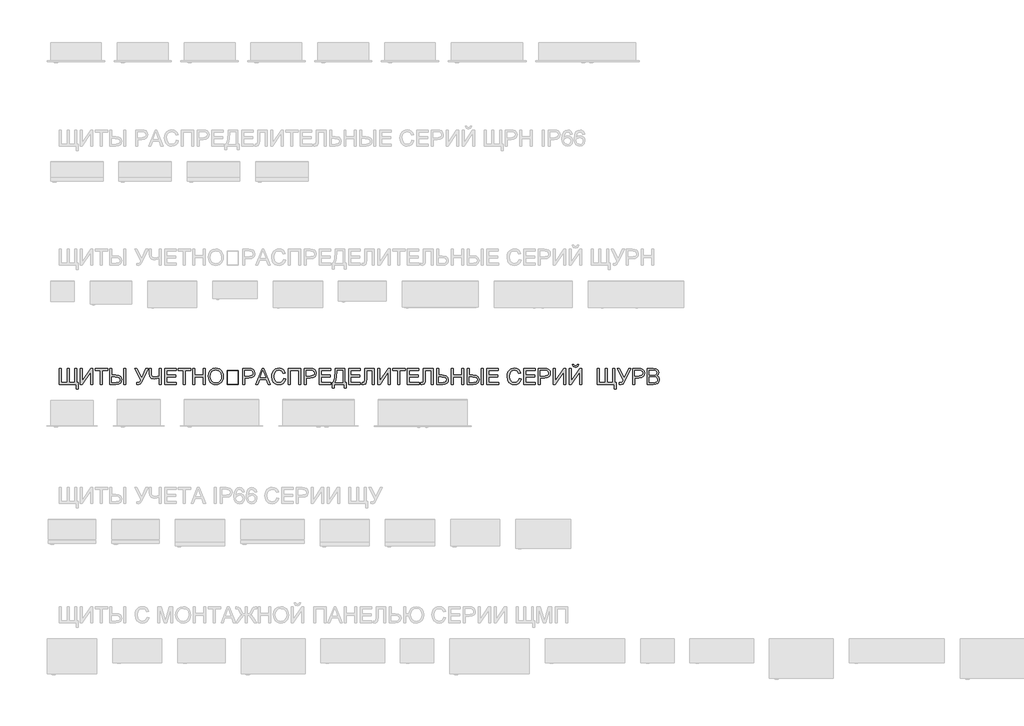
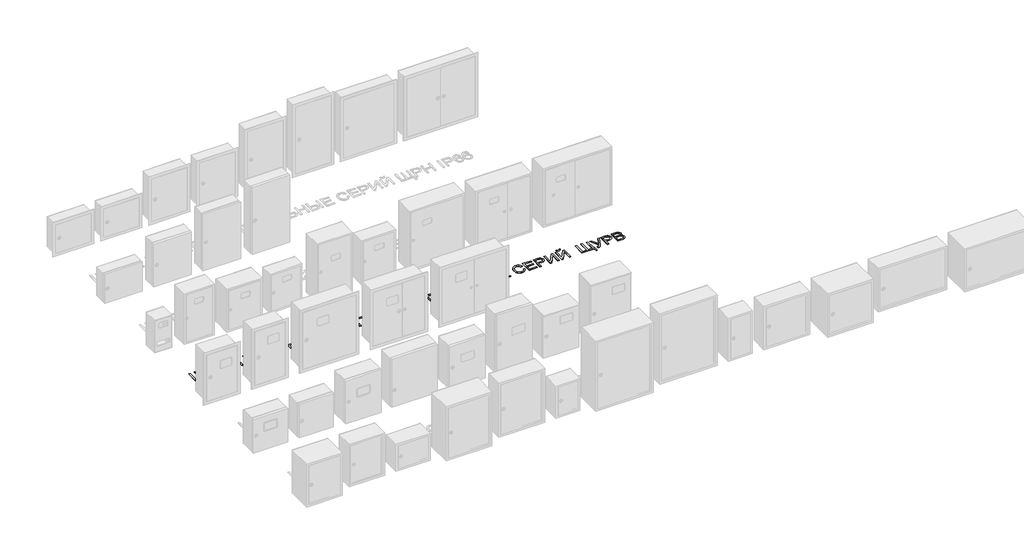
# One storey, part 10 of 25: 1 proxy.
"""IFC4 building model written with IfcOpenShell, lengths in millimetres."""

from ifc_helpers import new_model, si_unit, frame, origin, place, context, project, spatial, polyline, outline, extrude, element, save

model = new_model("IFC4")

# Units and contexts
model_context = context("Model", 3, world=origin())
ifc_project = project(units=[si_unit("LENGTHUNIT", "METRE", prefix="MILLI")], contexts=[model_context])

# Site, building, storey
site = spatial("IfcSite", under=ifc_project)
building = spatial("IfcBuilding", under=site)
storey = spatial("IfcBuildingStorey", under=building, Name="Этаж 01", Elevation=0.0)

# Proxy
placement = place(None, origin())
element("IfcBuildingElementProxy", 1, Name="Надпись на модели 1", ObjectType="Надпись на модели 1", at=placement, inside=storey, context=model_context, shape_type="SweptSolid", body=[
    extrude(outline(polyline([(-19039.6906686, 6886.6915941), (-19027.1336298, 6886.6915941), (-19027.1336298, 6798.7923228), (-18991.0321433, 6798.7923228), (-18991.0321433, 6886.6915941), (-18978.4751046, 6886.6915941), (-18978.4751046, 6798.7923228), (-18942.3736181, 6798.7923228), (-18942.3736181, 6886.6915941), (-18929.8165793, 6886.6915941), (-18929.8165793, 6798.7923228), (-18920.3988003, 6798.7923228), (-18920.3988003, 6757.9819468), (-18932.955839, 6757.9819468), (-18932.955839, 6786.235284), (-19039.6906686, 6786.235284), (-19039.6906686, 6886.6915941)])), frame((0.0, 0.0, 40.0), z_axis=(0.0, 0.0, 1.0), x_axis=(1.0, 0.0, 0.0)), (0.0, 0.0, 1.0), 2.0),
    extrude(outline(polyline([(-18907.8417615, 6886.6915941), (-18895.2847227, 6886.6915941), (-18895.2847227, 6807.1309813), (-18842.7021229, 6886.6915941), (-18829.3602692, 6886.6915941), (-18829.3602692, 6786.235284), (-18841.917308, 6786.235284), (-18841.917308, 6865.5751676), (-18894.3772805, 6786.235284), (-18907.8417615, 6786.235284), (-18907.8417615, 6886.6915941)])), frame((0.0, 0.0, 40.0), z_axis=(0.0, 0.0, 1.0), x_axis=(1.0, 0.0, 0.0)), (0.0, 0.0, 1.0), 2.0),
    extrude(outline(polyline([(-18782.2713738, 6786.235284), (-18782.2713738, 6874.1345554), (-18815.2336006, 6874.1345554), (-18815.2336006, 6886.6915941), (-18736.7521083, 6886.6915941), (-18736.7521083, 6874.1345554), (-18769.714335, 6874.1345554), (-18769.714335, 6786.235284), (-18782.2713738, 6786.235284)])), frame((0.0, 0.0, 40.0), z_axis=(0.0, 0.0, 1.0), x_axis=(1.0, 0.0, 0.0)), (0.0, 0.0, 1.0), 2.0),
    extrude(outline(polyline([(-18722.6254397, 6886.6915941), (-18710.0684009, 6886.6915941), (-18710.0684009, 6844.3115883), (-18685.935342, 6844.3115883), (-18666.2965748, 6842.1165591), (-18654.7634743, 6835.5314713), (-18649.1532739, 6826.1627432), (-18647.2832071, 6815.6167927), (-18649.2605728, 6804.6017926), (-18655.1926699, 6795.0521891), (-18666.4958443, 6788.4395103), (-18684.5864414, 6786.235284), (-18722.6254397, 6786.235284), (-18722.6254397, 6886.6915941)]), holes=[polyline([(-18710.0684009, 6798.7923228), (-18684.7090687, 6798.7923228), (-18665.7386205, 6802.777711), (-18661.3148395, 6807.9617815), (-18659.8402458, 6815.5432163), (-18663.4087012, 6825.5250811), (-18672.6302765, 6830.6509035), (-18691.5026229, 6831.7545495), (-18710.0684009, 6831.7545495), (-18710.0684009, 6798.7923228)])]), frame((0.0, 0.0, 40.0), z_axis=(0.0, 0.0, 1.0), x_axis=(1.0, 0.0, 0.0)), (0.0, 0.0, 1.0), 2.0),
    extrude(outline(polyline([(-18634.7261683, 6886.6915941), (-18622.1691295, 6886.6915941), (-18622.1691295, 6786.235284), (-18634.7261683, 6786.235284), (-18634.7261683, 6886.6915941)])), frame((0.0, 0.0, 40.0), z_axis=(0.0, 0.0, 1.0), x_axis=(1.0, 0.0, 0.0)), (0.0, 0.0, 1.0), 2.0),
    extrude(outline(polyline([(-18566.44727, 6886.6915941), (-18552.5413306, 6886.6915941), (-18522.4976343, 6827.1928128), (-18495.4705704, 6886.6915941), (-18481.6872583, 6886.6915941), (-18519.8243585, 6808.430831), (-18530.1986307, 6789.2028654), (-18541.7991763, 6784.6656541), (-18553.1054163, 6786.235284), (-18553.1054163, 6797.2226929), (-18543.2216533, 6797.2226929), (-18535.8885389, 6800.0185961), (-18529.0949847, 6812.7473131), (-18566.44727, 6886.6915941)])), frame((0.0, 0.0, 40.0), z_axis=(0.0, 0.0, 1.0), x_axis=(1.0, 0.0, 0.0)), (0.0, 0.0, 1.0), 2.0),
    extrude(outline(polyline([(-18399.2816914, 6786.235284), (-18411.8387301, 6786.235284), (-18411.8387301, 6826.4570488), (-18442.9370215, 6819.1975108), (-18461.294333, 6824.1639177), (-18471.9383854, 6836.7700074), (-18474.623924, 6856.7705252), (-18474.623924, 6886.6915941), (-18462.0668852, 6886.6915941), (-18462.0668852, 6858.4627824), (-18460.558569, 6844.8848711), (-18456.0336205, 6836.9171602), (-18441.5390699, 6831.7545495), (-18411.8387301, 6837.984018), (-18411.8387301, 6886.6915941), (-18399.2816914, 6886.6915941), (-18399.2816914, 6786.235284)])), frame((0.0, 0.0, 40.0), z_axis=(0.0, 0.0, 1.0), x_axis=(1.0, 0.0, 0.0)), (0.0, 0.0, 1.0), 2.0),
    extrude(outline(polyline([(-18377.3068735, 6786.235284), (-18377.3068735, 6886.6915941), (-18305.1039006, 6886.6915941), (-18305.1039006, 6874.1345554), (-18364.7498348, 6874.1345554), (-18364.7498348, 6844.3115883), (-18308.2431603, 6844.3115883), (-18308.2431603, 6831.7545495), (-18364.7498348, 6831.7545495), (-18364.7498348, 6798.7923228), (-18303.5342708, 6798.7923228), (-18303.5342708, 6786.235284), (-18377.3068735, 6786.235284)])), frame((0.0, 0.0, 40.0), z_axis=(0.0, 0.0, 1.0), x_axis=(1.0, 0.0, 0.0)), (0.0, 0.0, 1.0), 2.0),
    extrude(outline(polyline([(-18259.5846351, 6786.235284), (-18259.5846351, 6874.1345554), (-18292.5468618, 6874.1345554), (-18292.5468618, 6886.6915941), (-18214.0653695, 6886.6915941), (-18214.0653695, 6874.1345554), (-18247.0275963, 6874.1345554), (-18247.0275963, 6786.235284), (-18259.5846351, 6786.235284)])), frame((0.0, 0.0, 40.0), z_axis=(0.0, 0.0, 1.0), x_axis=(1.0, 0.0, 0.0)), (0.0, 0.0, 1.0), 2.0),
    extrude(outline(polyline([(-18199.9387009, 6786.235284), (-18199.9387009, 6886.6915941), (-18187.3816621, 6886.6915941), (-18187.3816621, 6845.8812181), (-18134.0142474, 6845.8812181), (-18134.0142474, 6886.6915941), (-18121.4572086, 6886.6915941), (-18121.4572086, 6786.235284), (-18134.0142474, 6786.235284), (-18134.0142474, 6833.3241794), (-18187.3816621, 6833.3241794), (-18187.3816621, 6786.235284), (-18199.9387009, 6786.235284)])), frame((0.0, 0.0, 40.0), z_axis=(0.0, 0.0, 1.0), x_axis=(1.0, 0.0, 0.0)), (0.0, 0.0, 1.0), 2.0),
    extrude(outline(polyline([(-18104.1912803, 6835.1390639), (-18100.8435541, 6857.353005), (-18090.8003757, 6874.1590808), (-18075.4658278, 6884.7356882), (-18056.2439936, 6888.261224), (-18043.0676868, 6886.605755), (-18031.2525434, 6881.6393481), (-18021.4423569, 6873.7114911), (-18014.2809207, 6863.1716719), (-18009.9031249, 6850.528794), (-18008.4438597, 6836.2917608), (-18009.979767, 6821.8646552), (-18014.587489, 6809.0439677), (-18022.0125739, 6798.4857544), (-18032.0005701, 6790.8460717), (-18043.714546, 6786.2107585), (-18056.31757, 6784.6656541), (-18069.6962119, 6786.3732397), (-18081.5788003, 6791.4959965), (-18091.3644614, 6799.5710063), (-18098.4523212, 6810.1353509), (-18104.1912803, 6835.1390639)]), holes=[polyline([(-18091.6342415, 6835.0164366), (-18089.1234469, 6819.301744), (-18081.5910631, 6807.327185), (-18070.2694947, 6799.7488159), (-18056.3911464, 6797.2226929), (-18042.310463, 6799.7733414), (-18030.9705005, 6807.4252869), (-18023.493299, 6819.7677279), (-18021.0008985, 6836.3898627), (-18025.2683296, 6857.1138817), (-18037.7395292, 6870.8358802), (-18056.1704172, 6875.7041852), (-18069.6778178, 6873.3589375), (-18081.1618674, 6866.3231943), (-18089.016148, 6853.8060095), (-18091.6342415, 6835.0164366)])]), frame((0.0, 0.0, 40.0), z_axis=(0.0, 0.0, 1.0), x_axis=(1.0, 0.0, 0.0)), (0.0, 0.0, 1.0), 2.0),
    extrude(outline(polyline([(-17984.899412, 6786.235284), (-17984.899412, 6874.1345554), (-17914.2660689, 6874.1345554), (-17914.2660689, 6786.235284), (-17984.899412, 6786.235284)]), holes=[polyline([(-17981.7601523, 6789.3745437), (-17917.4053286, 6789.3745437), (-17917.4053286, 6870.9952957), (-17981.7601523, 6870.9952957), (-17981.7601523, 6789.3745437)])]), frame((0.0, 0.0, 40.0), z_axis=(0.0, 0.0, 1.0), x_axis=(1.0, 0.0, 0.0)), (0.0, 0.0, 1.0), 2.0),
    extrude(outline(polyline([(-17886.0127317, 6786.235284), (-17886.0127317, 6886.6915941), (-17848.7830738, 6886.6915941), (-17833.7734884, 6885.735101), (-17821.5720689, 6881.0384742), (-17813.662606, 6871.3263895), (-17810.6704991, 6857.6289165), (-17812.6907844, 6845.7892476), (-17818.7516402, 6835.9238788), (-17830.0854714, 6829.2652147), (-17847.9246825, 6827.04566), (-17873.4556929, 6827.04566), (-17873.4556929, 6786.235284), (-17886.0127317, 6786.235284)]), holes=[polyline([(-17873.4556929, 6839.6026988), (-17847.1889185, 6839.6026988), (-17828.6967169, 6844.2134864), (-17824.5948326, 6849.7623732), (-17823.2275379, 6857.1874581), (-17826.4526367, 6867.5862559), (-17834.9261853, 6873.2761641), (-17847.4832241, 6874.1345554), (-17873.4556929, 6874.1345554), (-17873.4556929, 6839.6026988)])]), frame((0.0, 0.0, 40.0), z_axis=(0.0, 0.0, 1.0), x_axis=(1.0, 0.0, 0.0)), (0.0, 0.0, 1.0), 2.0),
    extrude(outline(polyline([(-17805.1032182, 6786.235284), (-17765.0040808, 6886.6915941), (-17754.3109774, 6886.6915941), (-17714.21184, 6786.235284), (-17727.4801172, 6786.235284), (-17738.982561, 6817.6278809), (-17780.3570227, 6817.6278809), (-17791.8349409, 6786.235284), (-17805.1032182, 6786.235284)]), holes=[polyline([(-17775.746235, 6830.1849197), (-17743.5688232, 6830.1849197), (-17752.6187202, 6854.8820643), (-17759.6575291, 6874.1345554), (-17765.911523, 6857.0403053), (-17775.746235, 6830.1849197)])]), frame((0.0, 0.0, 40.0), z_axis=(0.0, 0.0, 1.0), x_axis=(1.0, 0.0, 0.0)), (0.0, 0.0, 1.0), 2.0),
    extrude(outline(polyline([(-17630.1630668, 6821.944363), (-17617.606028, 6818.7070014), (-17623.4001694, 6804.0744951), (-17632.4929861, 6793.3844574), (-17644.4368882, 6786.845355), (-17658.784286, 6784.6656541), (-17673.3493473, 6786.3149918), (-17684.9161704, 6791.2630046), (-17693.7821265, 6799.3380144), (-17700.2445869, 6810.3683429), (-17705.5052994, 6837.2237285), (-17704.018443, 6851.8715633), (-17699.5578738, 6864.5205726), (-17692.3565838, 6874.7691518), (-17682.6475648, 6882.2156965), (-17671.1328583, 6886.7498421), (-17658.5145059, 6888.261224), (-17644.7465222, 6886.305318), (-17633.3636401, 6880.4376002), (-17624.7214789, 6871.0198211), (-17619.1756579, 6858.4137314), (-17631.7326966, 6855.4216246), (-17642.0333925, 6870.8604056), (-17659.0050152, 6875.7041852), (-17678.6499138, 6870.3331081), (-17689.7476873, 6855.9121339), (-17692.9482606, 6837.248254), (-17689.1590761, 6815.6167927), (-17677.3623268, 6801.7966924), (-17660.0350848, 6797.2226929), (-17649.5535136, 6798.78006), (-17640.8193819, 6803.4521614), (-17634.2250972, 6811.189946), (-17630.1630668, 6821.944363)])), frame((0.0, 0.0, 40.0), z_axis=(0.0, 0.0, 1.0), x_axis=(1.0, 0.0, 0.0)), (0.0, 0.0, 1.0), 2.0),
    extrude(outline(polyline([(-17600.3400997, 6886.6915941), (-17521.8586074, 6886.6915941), (-17521.8586074, 6786.235284), (-17534.4156462, 6786.235284), (-17534.4156462, 6874.1345554), (-17587.7830609, 6874.1345554), (-17587.7830609, 6786.235284), (-17600.3400997, 6786.235284), (-17600.3400997, 6886.6915941)])), frame((0.0, 0.0, 40.0), z_axis=(0.0, 0.0, 1.0), x_axis=(1.0, 0.0, 0.0)), (0.0, 0.0, 1.0), 2.0),
    extrude(outline(polyline([(-17499.8837896, 6786.235284), (-17499.8837896, 6886.6915941), (-17462.6541316, 6886.6915941), (-17447.6445462, 6885.735101), (-17435.4431267, 6881.0384742), (-17427.5336638, 6871.3263895), (-17424.5415569, 6857.6289165), (-17426.5618422, 6845.7892476), (-17432.6226981, 6835.9238788), (-17443.9565292, 6829.2652147), (-17461.7957403, 6827.04566), (-17487.3267508, 6827.04566), (-17487.3267508, 6786.235284), (-17499.8837896, 6786.235284)]), holes=[polyline([(-17487.3267508, 6839.6026988), (-17461.0599763, 6839.6026988), (-17442.5677747, 6844.2134864), (-17438.4658905, 6849.7623732), (-17437.0985957, 6857.1874581), (-17440.3236945, 6867.5862559), (-17448.7972432, 6873.2761641), (-17461.3542819, 6874.1345554), (-17487.3267508, 6874.1345554), (-17487.3267508, 6839.6026988)])]), frame((0.0, 0.0, 40.0), z_axis=(0.0, 0.0, 1.0), x_axis=(1.0, 0.0, 0.0)), (0.0, 0.0, 1.0), 2.0),
    extrude(outline(polyline([(-17407.2756286, 6786.235284), (-17407.2756286, 6886.6915941), (-17335.0726557, 6886.6915941), (-17335.0726557, 6874.1345554), (-17394.7185899, 6874.1345554), (-17394.7185899, 6844.3115883), (-17338.2119154, 6844.3115883), (-17338.2119154, 6831.7545495), (-17394.7185899, 6831.7545495), (-17394.7185899, 6798.7923228), (-17333.5030259, 6798.7923228), (-17333.5030259, 6786.235284), (-17407.2756286, 6786.235284)])), frame((0.0, 0.0, 40.0), z_axis=(0.0, 0.0, 1.0), x_axis=(1.0, 0.0, 0.0)), (0.0, 0.0, 1.0), 2.0),
    extrude(outline(polyline([(-17305.2496886, 6886.6915941), (-17245.6037545, 6886.6915941), (-17245.6037545, 6798.7923228), (-17236.1859754, 6798.7923228), (-17236.1859754, 6762.6908363), (-17248.7430142, 6762.6908363), (-17248.7430142, 6786.235284), (-17313.0978379, 6786.235284), (-17313.0978379, 6762.6908363), (-17325.6548766, 6762.6908363), (-17325.6548766, 6798.7923228), (-17317.8067274, 6798.7923228), (-17308.3889483, 6826.2056628), (-17305.2496886, 6872.1479926), (-17305.2496886, 6886.6915941)]), holes=[polyline([(-17258.1607933, 6874.1345554), (-17292.6926499, 6874.1345554), (-17292.6926499, 6869.0823093), (-17295.2432984, 6834.67308), (-17299.0202202, 6814.7890582), (-17305.2496886, 6798.7923228), (-17258.1607933, 6798.7923228), (-17258.1607933, 6874.1345554)])]), frame((0.0, 0.0, 40.0), z_axis=(0.0, 0.0, 1.0), x_axis=(1.0, 0.0, 0.0)), (0.0, 0.0, 1.0), 2.0),
    extrude(outline(polyline([(-17220.489677, 6786.235284), (-17220.489677, 6886.6915941), (-17148.286704, 6886.6915941), (-17148.286704, 6874.1345554), (-17207.9326382, 6874.1345554), (-17207.9326382, 6844.3115883), (-17151.4259637, 6844.3115883), (-17151.4259637, 6831.7545495), (-17207.9326382, 6831.7545495), (-17207.9326382, 6798.7923228), (-17146.7170742, 6798.7923228), (-17146.7170742, 6786.235284), (-17220.489677, 6786.235284)])), frame((0.0, 0.0, 40.0), z_axis=(0.0, 0.0, 1.0), x_axis=(1.0, 0.0, 0.0)), (0.0, 0.0, 1.0), 2.0),
    extrude(outline(polyline([(-17120.0333668, 6886.6915941), (-17058.8178028, 6886.6915941), (-17058.8178028, 6786.235284), (-17071.3748416, 6786.235284), (-17071.3748416, 6874.1345554), (-17107.476328, 6874.1345554), (-17107.476328, 6822.8763307), (-17108.9355933, 6800.0063333), (-17115.0546971, 6788.7000934), (-17126.8759719, 6784.6656541), (-17137.2992951, 6786.235284), (-17135.7296653, 6798.7923228), (-17129.720926, 6797.2226929), (-17122.4491252, 6800.5949445), (-17120.0333668, 6816.475184), (-17120.0333668, 6886.6915941)])), frame((0.0, 0.0, 40.0), z_axis=(0.0, 0.0, 1.0), x_axis=(1.0, 0.0, 0.0)), (0.0, 0.0, 1.0), 2.0),
    extrude(outline(polyline([(-17036.842985, 6886.6915941), (-17024.2859462, 6886.6915941), (-17024.2859462, 6807.1309813), (-16971.7033464, 6886.6915941), (-16958.3614927, 6886.6915941), (-16958.3614927, 6786.235284), (-16970.9185314, 6786.235284), (-16970.9185314, 6865.5751676), (-17023.3785039, 6786.235284), (-17036.842985, 6786.235284), (-17036.842985, 6886.6915941)])), frame((0.0, 0.0, 40.0), z_axis=(0.0, 0.0, 1.0), x_axis=(1.0, 0.0, 0.0)), (0.0, 0.0, 1.0), 2.0),
    extrude(outline(polyline([(-16911.2725973, 6786.235284), (-16911.2725973, 6874.1345554), (-16944.234824, 6874.1345554), (-16944.234824, 6886.6915941), (-16865.7533317, 6886.6915941), (-16865.7533317, 6874.1345554), (-16898.7155585, 6874.1345554), (-16898.7155585, 6786.235284), (-16911.2725973, 6786.235284)])), frame((0.0, 0.0, 40.0), z_axis=(0.0, 0.0, 1.0), x_axis=(1.0, 0.0, 0.0)), (0.0, 0.0, 1.0), 2.0),
    extrude(outline(polyline([(-16851.6266631, 6786.235284), (-16851.6266631, 6886.6915941), (-16779.4236902, 6886.6915941), (-16779.4236902, 6874.1345554), (-16839.0696244, 6874.1345554), (-16839.0696244, 6844.3115883), (-16782.5629499, 6844.3115883), (-16782.5629499, 6831.7545495), (-16839.0696244, 6831.7545495), (-16839.0696244, 6798.7923228), (-16777.8540604, 6798.7923228), (-16777.8540604, 6786.235284), (-16851.6266631, 6786.235284)])), frame((0.0, 0.0, 40.0), z_axis=(0.0, 0.0, 1.0), x_axis=(1.0, 0.0, 0.0)), (0.0, 0.0, 1.0), 2.0),
    extrude(outline(polyline([(-16751.170353, 6886.6915941), (-16689.954789, 6886.6915941), (-16689.954789, 6786.235284), (-16702.5118277, 6786.235284), (-16702.5118277, 6874.1345554), (-16738.6133142, 6874.1345554), (-16738.6133142, 6822.8763307), (-16740.0725795, 6800.0063333), (-16746.1916833, 6788.7000934), (-16758.0129581, 6784.6656541), (-16768.4362813, 6786.235284), (-16766.8666514, 6798.7923228), (-16760.8579122, 6797.2226929), (-16753.5861114, 6800.5949445), (-16751.170353, 6816.475184), (-16751.170353, 6886.6915941)])), frame((0.0, 0.0, 40.0), z_axis=(0.0, 0.0, 1.0), x_axis=(1.0, 0.0, 0.0)), (0.0, 0.0, 1.0), 2.0),
    extrude(outline(polyline([(-16667.9799711, 6886.6915941), (-16655.4229324, 6886.6915941), (-16655.4229324, 6844.3115883), (-16631.9030101, 6844.3115883), (-16608.0519941, 6840.375251), (-16597.4324672, 6829.6576222), (-16594.2073684, 6815.6903691), (-16596.1448802, 6804.666172), (-16601.9574157, 6795.0889773), (-16613.0429265, 6788.4487073), (-16630.7993642, 6786.235284), (-16667.9799711, 6786.235284), (-16667.9799711, 6886.6915941)]), holes=[polyline([(-16655.4229324, 6798.7923228), (-16630.8238896, 6798.7923228), (-16618.4507919, 6800.0339245), (-16611.3016184, 6803.7587297), (-16606.7644071, 6815.73942), (-16610.0508196, 6825.4269792), (-16618.8186738, 6830.5895899), (-16637.3967146, 6831.7545495), (-16655.4229324, 6831.7545495), (-16655.4229324, 6798.7923228)])]), frame((0.0, 0.0, 40.0), z_axis=(0.0, 0.0, 1.0), x_axis=(1.0, 0.0, 0.0)), (0.0, 0.0, 1.0), 2.0),
    extrude(outline(polyline([(-16576.9414401, 6786.235284), (-16576.9414401, 6886.6915941), (-16564.3844013, 6886.6915941), (-16564.3844013, 6845.8812181), (-16511.0169865, 6845.8812181), (-16511.0169865, 6886.6915941), (-16498.4599478, 6886.6915941), (-16498.4599478, 6786.235284), (-16511.0169865, 6786.235284), (-16511.0169865, 6833.3241794), (-16564.3844013, 6833.3241794), (-16564.3844013, 6786.235284), (-16576.9414401, 6786.235284)])), frame((0.0, 0.0, 40.0), z_axis=(0.0, 0.0, 1.0), x_axis=(1.0, 0.0, 0.0)), (0.0, 0.0, 1.0), 2.0),
    extrude(outline(polyline([(-16476.4851299, 6886.6915941), (-16463.9280911, 6886.6915941), (-16463.9280911, 6844.3115883), (-16439.7950323, 6844.3115883), (-16420.1562651, 6842.1165591), (-16408.6231645, 6835.5314713), (-16403.0129641, 6826.1627432), (-16401.1428973, 6815.6167927), (-16403.120263, 6804.6017926), (-16409.0523602, 6795.0521891), (-16420.3555345, 6788.4395103), (-16438.4461316, 6786.235284), (-16476.4851299, 6786.235284), (-16476.4851299, 6886.6915941)]), holes=[polyline([(-16463.9280911, 6798.7923228), (-16438.5687589, 6798.7923228), (-16419.5983107, 6802.777711), (-16415.1745297, 6807.9617815), (-16413.6999361, 6815.5432163), (-16417.2683914, 6825.5250811), (-16426.4899668, 6830.6509035), (-16445.3623131, 6831.7545495), (-16463.9280911, 6831.7545495), (-16463.9280911, 6798.7923228)])]), frame((0.0, 0.0, 40.0), z_axis=(0.0, 0.0, 1.0), x_axis=(1.0, 0.0, 0.0)), (0.0, 0.0, 1.0), 2.0),
    extrude(outline(polyline([(-16388.5858585, 6886.6915941), (-16376.0288198, 6886.6915941), (-16376.0288198, 6786.235284), (-16388.5858585, 6786.235284), (-16388.5858585, 6886.6915941)])), frame((0.0, 0.0, 40.0), z_axis=(0.0, 0.0, 1.0), x_axis=(1.0, 0.0, 0.0)), (0.0, 0.0, 1.0), 2.0),
    extrude(outline(polyline([(-16352.4843721, 6786.235284), (-16352.4843721, 6886.6915941), (-16280.2813992, 6886.6915941), (-16280.2813992, 6874.1345554), (-16339.9273333, 6874.1345554), (-16339.9273333, 6844.3115883), (-16283.4206588, 6844.3115883), (-16283.4206588, 6831.7545495), (-16339.9273333, 6831.7545495), (-16339.9273333, 6798.7923228), (-16278.7117693, 6798.7923228), (-16278.7117693, 6786.235284), (-16352.4843721, 6786.235284)])), frame((0.0, 0.0, 40.0), z_axis=(0.0, 0.0, 1.0), x_axis=(1.0, 0.0, 0.0)), (0.0, 0.0, 1.0), 2.0),
    extrude(outline(polyline([(-16150.0021219, 6821.944363), (-16137.4450832, 6818.7070014), (-16143.2392246, 6804.0744951), (-16152.3320412, 6793.3844574), (-16164.2759433, 6786.845355), (-16178.6233412, 6784.6656541), (-16193.1884025, 6786.3149918), (-16204.7552255, 6791.2630046), (-16213.6211816, 6799.3380144), (-16220.083642, 6810.3683429), (-16225.3443545, 6837.2237285), (-16223.8574981, 6851.8715633), (-16219.3969289, 6864.5205726), (-16212.1956389, 6874.7691518), (-16202.4866199, 6882.2156965), (-16190.9719135, 6886.7498421), (-16178.353561, 6888.261224), (-16164.5855774, 6886.305318), (-16153.2026953, 6880.4376002), (-16144.5605341, 6871.0198211), (-16139.014713, 6858.4137314), (-16151.5717518, 6855.4216246), (-16161.8724476, 6870.8604056), (-16178.8440703, 6875.7041852), (-16198.4889689, 6870.3331081), (-16209.5867424, 6855.9121339), (-16212.7873158, 6837.248254), (-16208.9981312, 6815.6167927), (-16197.2013819, 6801.7966924), (-16179.8741399, 6797.2226929), (-16169.3925688, 6798.78006), (-16160.6584371, 6803.4521614), (-16154.0641523, 6811.189946), (-16150.0021219, 6821.944363)])), frame((0.0, 0.0, 40.0), z_axis=(0.0, 0.0, 1.0), x_axis=(1.0, 0.0, 0.0)), (0.0, 0.0, 1.0), 2.0),
    extrude(outline(polyline([(-16120.1791549, 6786.235284), (-16120.1791549, 6886.6915941), (-16047.9761819, 6886.6915941), (-16047.9761819, 6874.1345554), (-16107.6221161, 6874.1345554), (-16107.6221161, 6844.3115883), (-16051.1154416, 6844.3115883), (-16051.1154416, 6831.7545495), (-16107.6221161, 6831.7545495), (-16107.6221161, 6798.7923228), (-16046.4065521, 6798.7923228), (-16046.4065521, 6786.235284), (-16120.1791549, 6786.235284)])), frame((0.0, 0.0, 40.0), z_axis=(0.0, 0.0, 1.0), x_axis=(1.0, 0.0, 0.0)), (0.0, 0.0, 1.0), 2.0),
    extrude(outline(polyline([(-16027.5709939, 6786.235284), (-16027.5709939, 6886.6915941), (-15990.341336, 6886.6915941), (-15975.3317506, 6885.735101), (-15963.1303311, 6881.0384742), (-15955.2208682, 6871.3263895), (-15952.2287613, 6857.6289165), (-15954.2490466, 6845.7892476), (-15960.3099025, 6835.9238788), (-15971.6437336, 6829.2652147), (-15989.4829447, 6827.04566), (-16015.0139552, 6827.04566), (-16015.0139552, 6786.235284), (-16027.5709939, 6786.235284)]), holes=[polyline([(-16015.0139552, 6839.6026988), (-15988.7471807, 6839.6026988), (-15970.2549791, 6844.2134864), (-15966.1530948, 6849.7623732), (-15964.7858001, 6857.1874581), (-15968.0108989, 6867.5862559), (-15976.4844475, 6873.2761641), (-15989.0414863, 6874.1345554), (-16015.0139552, 6874.1345554), (-16015.0139552, 6839.6026988)])]), frame((0.0, 0.0, 40.0), z_axis=(0.0, 0.0, 1.0), x_axis=(1.0, 0.0, 0.0)), (0.0, 0.0, 1.0), 2.0),
    extrude(outline(polyline([(-15934.962833, 6886.6915941), (-15922.4057942, 6886.6915941), (-15922.4057942, 6807.1309813), (-15869.8231944, 6886.6915941), (-15856.4813407, 6886.6915941), (-15856.4813407, 6786.235284), (-15869.0383795, 6786.235284), (-15869.0383795, 6865.5751676), (-15921.498352, 6786.235284), (-15934.962833, 6786.235284), (-15934.962833, 6886.6915941)])), frame((0.0, 0.0, 40.0), z_axis=(0.0, 0.0, 1.0), x_axis=(1.0, 0.0, 0.0)), (0.0, 0.0, 1.0), 2.0),
    extrude(outline(polyline([(-15834.5065229, 6886.6915941), (-15821.9494841, 6886.6915941), (-15821.9494841, 6807.1309813), (-15769.3668843, 6886.6915941), (-15756.0250306, 6886.6915941), (-15756.0250306, 6786.235284), (-15768.5820693, 6786.235284), (-15768.5820693, 6865.5751676), (-15821.0420418, 6786.235284), (-15834.5065229, 6786.235284), (-15834.5065229, 6886.6915941)])), frame((0.0, 0.0, 40.0), z_axis=(0.0, 0.0, 1.0), x_axis=(1.0, 0.0, 0.0)), (0.0, 0.0, 1.0), 2.0),
    extrude(outline(polyline([(-15784.2783678, 6911.8056717), (-15774.8605887, 6911.8056717), (-15780.9551671, 6897.8384186), (-15794.4809618, 6892.9701135), (-15809.1226652, 6897.8016304), (-15815.6709647, 6911.8056717), (-15806.2531856, 6911.8056717), (-15802.7215185, 6904.7300746), (-15795.6091332, 6902.3878926), (-15787.8100349, 6904.6564982), (-15784.2783678, 6911.8056717)])), frame((0.0, 0.0, 40.0), z_axis=(0.0, 0.0, 1.0), x_axis=(1.0, 0.0, 0.0)), (0.0, 0.0, 1.0), 2.0),
    extrude(outline(polyline([(-15657.1383503, 6886.6915941), (-15644.5813115, 6886.6915941), (-15644.5813115, 6798.7923228), (-15608.479825, 6798.7923228), (-15608.479825, 6886.6915941), (-15595.9227863, 6886.6915941), (-15595.9227863, 6798.7923228), (-15559.8212998, 6798.7923228), (-15559.8212998, 6886.6915941), (-15547.264261, 6886.6915941), (-15547.264261, 6798.7923228), (-15537.846482, 6798.7923228), (-15537.846482, 6757.9819468), (-15550.4035207, 6757.9819468), (-15550.4035207, 6786.235284), (-15657.1383503, 6786.235284), (-15657.1383503, 6886.6915941)])), frame((0.0, 0.0, 40.0), z_axis=(0.0, 0.0, 1.0), x_axis=(1.0, 0.0, 0.0)), (0.0, 0.0, 1.0), 2.0),
    extrude(outline(polyline([(-15532.3527775, 6886.6915941), (-15518.4468381, 6886.6915941), (-15488.4031418, 6827.1928128), (-15461.3760779, 6886.6915941), (-15447.5927658, 6886.6915941), (-15485.729866, 6808.430831), (-15496.1041382, 6789.2028654), (-15507.7046838, 6784.6656541), (-15519.0109238, 6786.235284), (-15519.0109238, 6797.2226929), (-15509.1271609, 6797.2226929), (-15501.7940464, 6800.0185961), (-15495.0004922, 6812.7473131), (-15532.3527775, 6886.6915941)])), frame((0.0, 0.0, 40.0), z_axis=(0.0, 0.0, 1.0), x_axis=(1.0, 0.0, 0.0)), (0.0, 0.0, 1.0), 2.0),
    extrude(outline(polyline([(-15435.820542, 6786.235284), (-15435.820542, 6886.6915941), (-15398.590884, 6886.6915941), (-15383.5812986, 6885.735101), (-15371.3798791, 6881.0384742), (-15363.4704162, 6871.3263895), (-15360.4783093, 6857.6289165), (-15362.4985946, 6845.7892476), (-15368.5594505, 6835.9238788), (-15379.8932816, 6829.2652147), (-15397.7324927, 6827.04566), (-15423.2635032, 6827.04566), (-15423.2635032, 6786.235284), (-15435.820542, 6786.235284)]), holes=[polyline([(-15423.2635032, 6839.6026988), (-15396.9967287, 6839.6026988), (-15378.5045271, 6844.2134864), (-15374.4026429, 6849.7623732), (-15373.0353481, 6857.1874581), (-15376.2604469, 6867.5862559), (-15384.7339956, 6873.2761641), (-15397.2910343, 6874.1345554), (-15423.2635032, 6874.1345554), (-15423.2635032, 6839.6026988)])]), frame((0.0, 0.0, 40.0), z_axis=(0.0, 0.0, 1.0), x_axis=(1.0, 0.0, 0.0)), (0.0, 0.0, 1.0), 2.0),
    extrude(outline(polyline([(-15343.212381, 6786.235284), (-15343.212381, 6886.6915941), (-15304.8790771, 6886.6915941), (-15286.1048327, 6883.7362754), (-15275.0193219, 6874.6495902), (-15271.0094081, 6861.7982458), (-15274.3816597, 6850.0628102), (-15284.571991, 6841.1723286), (-15272.1988932, 6831.8036005), (-15267.8701484, 6816.1808784), (-15270.8254671, 6802.6796092), (-15278.1463188, 6793.0656264), (-15289.0724141, 6787.9643294), (-15305.1733827, 6786.235284), (-15343.212381, 6786.235284)]), holes=[polyline([(-15330.6553423, 6845.8812181), (-15307.7240312, 6845.8812181), (-15294.3331266, 6846.9603387), (-15286.2765109, 6851.6079145), (-15283.5664469, 6859.7871576), (-15286.0925699, 6867.9786633), (-15293.3275825, 6872.8224429), (-15309.4653393, 6874.1345554), (-15330.6553423, 6874.1345554), (-15330.6553423, 6845.8812181)]), polyline([(-15330.6553423, 6798.7923228), (-15304.9036026, 6798.7923228), (-15295.5839254, 6799.2828321), (-15287.698988, 6802.0174216), (-15282.4750636, 6807.5969652), (-15280.4271872, 6816.0582511), (-15282.8306829, 6825.8193867), (-15290.6175185, 6831.6441849), (-15306.1298759, 6833.3241794), (-15330.6553423, 6833.3241794), (-15330.6553423, 6798.7923228)])]), frame((0.0, 0.0, 40.0), z_axis=(0.0, 0.0, 1.0), x_axis=(1.0, 0.0, 0.0)), (0.0, 0.0, 1.0), 2.0),
])

save(model, "model.ifc")
